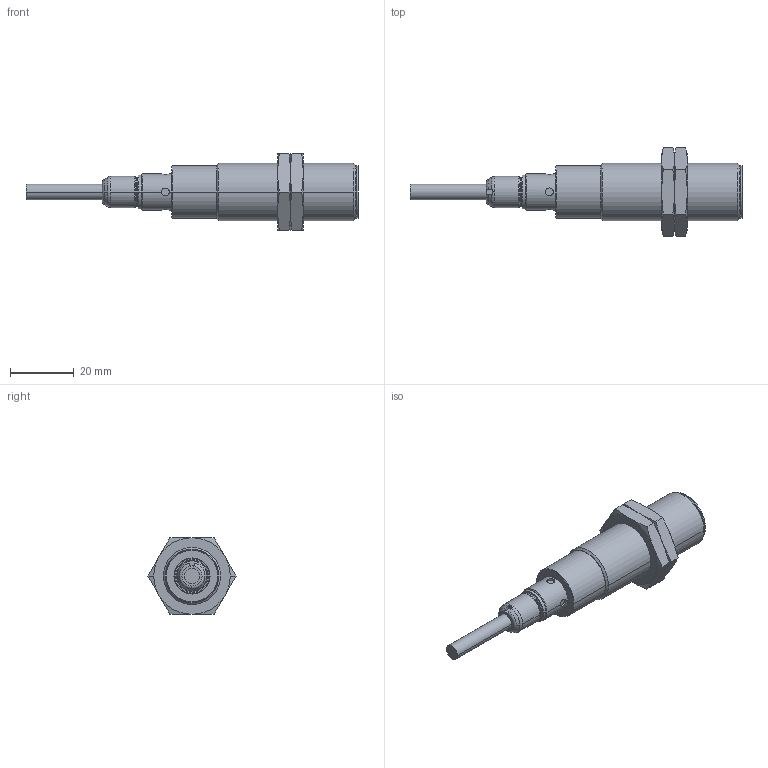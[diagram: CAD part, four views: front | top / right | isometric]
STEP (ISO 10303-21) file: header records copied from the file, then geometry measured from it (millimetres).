
FILE_DESCRIPTION( ( '' ), '1' );
FILE_NAME( '//expscmdclustefs.cadenas.external/client_exchange/iodir/jobs/output/wkb39661459_no0/STEP/ogh306_2_03_56fa68aab0d912ba39a93ed9979b71de.stp', '2011-12-01T08:56:01', ( '' ), ( '' ), ' ', ' ', ' ' );
FILE_SCHEMA( ( 'CONFIG_CONTROL_DESIGN' ) );
Length unit declared in the file: millimetre
Products named in the file (3): 1; 2; 3
Bounding box: 104.2 x 27.71 x 24 mm (x, y, z)
Volume: 19027.2 mm3; surface area: 7251.6 mm2
Topology: 3 solids, 3 shells, 142 faces, 329 edges, 204 vertices
Faces by surface type: cone 57, plane 35, cylinder 32, torus 18
Entity records: 4299 total; most frequent: CARTESIAN_POINT 960, DIRECTION 729, ORIENTED_EDGE 658, EDGE_CURVE 329, AXIS2_PLACEMENT_3D 323, VERTEX_POINT 204, CIRCLE 178, EDGE_LOOP 157
